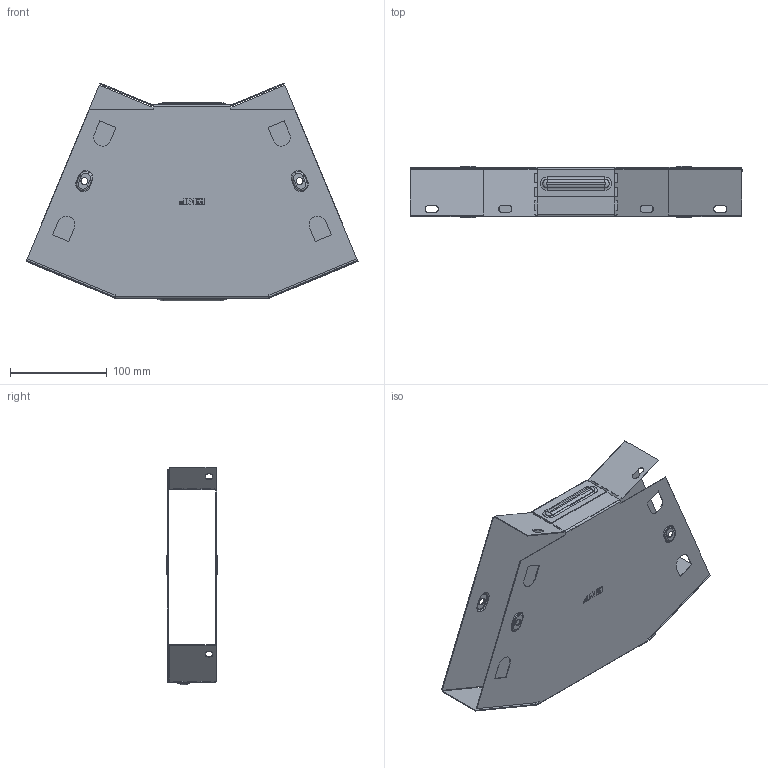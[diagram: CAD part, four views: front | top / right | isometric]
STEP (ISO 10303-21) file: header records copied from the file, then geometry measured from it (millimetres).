
FILE_DESCRIPTION (( 'STEP AP214' ), '1' );
FILE_NAME ('g4550200_捘.STEP', '2019-06-10T08:35:37', ( '砐錪賧瘔蠈錪 Windows' ), ( '' ), 'SwSTEP 2.0', 'SolidWorks 2018', '' );
FILE_SCHEMA (( 'AUTOMOTIVE_DESIGN' ));
Length unit declared in the file: millimetre
Products named in the file (1): g4550200_捘
Bounding box: 344.03 x 53.8 x 225.7 mm (x, y, z)
Volume: 112373.3 mm3; surface area: 283885.3 mm2
Topology: 2 solids, 2 shells, 510 faces, 1382 edges, 880 vertices
Faces by surface type: plane 286, cylinder 142, torus 64, bspline 18
Entity records: 16946 total; most frequent: CARTESIAN_POINT 3792, ORIENTED_EDGE 2764, DIRECTION 2712, EDGE_CURVE 1382, VECTOR 966, LINE 966, VERTEX_POINT 880, AXIS2_PLACEMENT_3D 873
